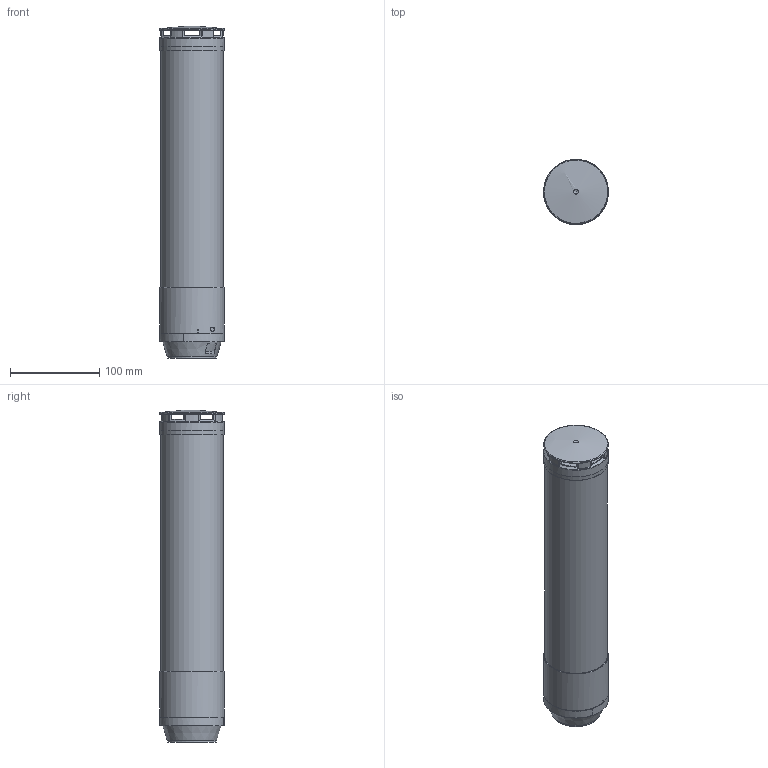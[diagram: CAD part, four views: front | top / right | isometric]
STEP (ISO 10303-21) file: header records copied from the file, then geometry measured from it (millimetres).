
FILE_DESCRIPTION(/* description */ ('Customer-3D'),/* implementation_level */ '2;1');
FILE_NAME(/* name */ 'C:\CEWorkDir\0050569C0EFC1EDCBDDBA3527F3560C5\in\100000012171_prt_000.step',/* time_stamp */ '2022-06-28T14:27:16+02:00',/* author */ ('JENNERT'),/* organization */ ('WERMA Signaltechnik GmbH+Co.KG'),/* preprocessor_version */ 'ST-DEVELOPER v17',/* originating_system */ 'Autodesk Inventor 2018',/* authorisation */ 'public');
FILE_SCHEMA (('AUTOMOTIVE_DESIGN { 1 0 10303 214 3 1 1 }'));
Length unit declared in the file: millimetre
Products named in the file (1): 100000012171_prt_000_1
Bounding box: 72.5 x 72.5 x 371.38 mm (x, y, z)
Volume: 1387670.5 mm3; surface area: 100609.7 mm2
Topology: 1 solids, 1 shells, 354 faces, 952 edges, 622 vertices
Faces by surface type: plane 127, cylinder 97, bspline 65, cone 33, torus 19, sphere 13
Full cylindrical faces by diameter (mm): 0.8 x8, 6 x2, 9.74 x1, 17.5 x1, 54 x1, 70 x1, 72.5 x3
Entity records: 14260 total; most frequent: CARTESIAN_POINT 5319, ORIENTED_EDGE 1884, DIRECTION 1667, EDGE_CURVE 942, AXIS2_PLACEMENT_3D 683, VERTEX_POINT 622, EDGE_LOOP 402, CIRCLE 357
